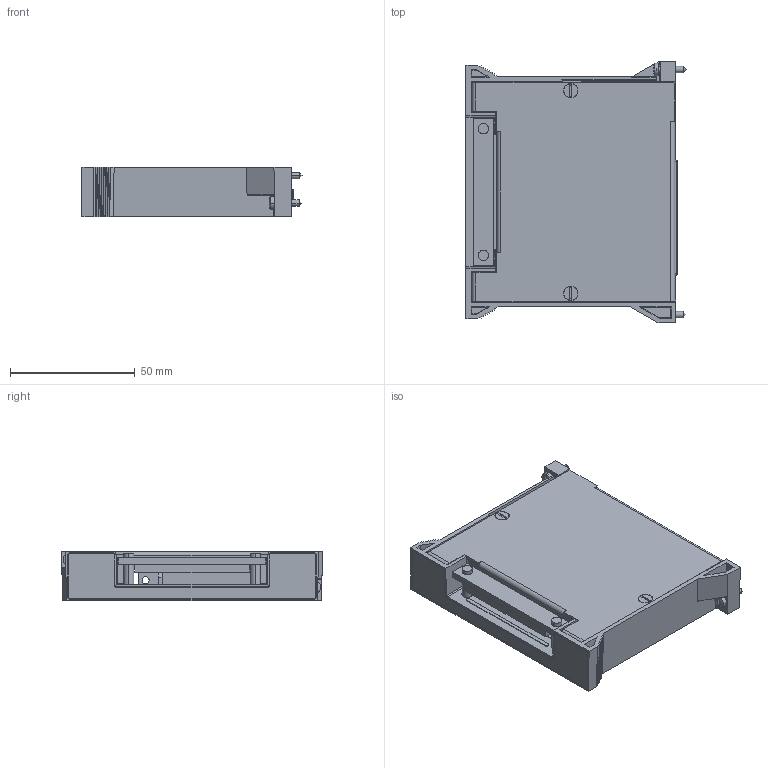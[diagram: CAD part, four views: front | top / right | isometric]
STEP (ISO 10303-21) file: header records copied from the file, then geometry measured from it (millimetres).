
FILE_DESCRIPTION((''),'2;1');
FILE_NAME('CU_PXI_TB_PL','2007-09-12T',('chrisj'),(''),'PRO/ENGINEER BY PARAMETRIC TECHNOLOGY CORPORATION, 2006300','PRO/ENGINEER BY PARAMETRIC TECHNOLOGY CORPORATION, 2006300','');
FILE_SCHEMA(('AUTOMOTIVE_DESIGN_CC2 { 1 2 10303 214 -1 1 5 2 }'));
Length unit declared in the file: inch
Products named in the file (1): CU_PXI_TB_PL
Bounding box: 88.3 x 104.78 x 20.02 mm (x, y, z)
Volume: 43400.1 mm3; surface area: 51522.3 mm2
Topology: 5 solids, 5 shells, 815 faces, 2070 edges, 1253 vertices
Faces by surface type: plane 484, cylinder 180, bspline 60, cone 52, sphere 27, torus 12
Entity records: 25866 total; most frequent: CARTESIAN_POINT 6665, ORIENTED_EDGE 4012, DIRECTION 3787, EDGE_CURVE 2006, VECTOR 1347, LINE 1347, VERTEX_POINT 1310, AXIS2_PLACEMENT_3D 1220
